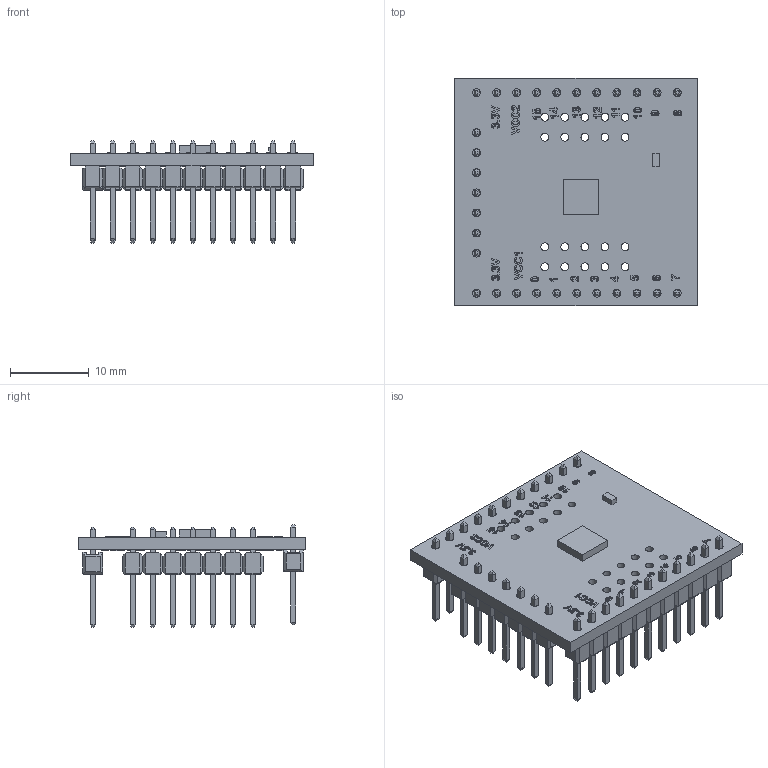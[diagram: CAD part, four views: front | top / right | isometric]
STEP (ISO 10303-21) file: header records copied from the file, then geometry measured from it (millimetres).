
FILE_DESCRIPTION(/* description */ (''),/* implementation_level */ '2;1');
FILE_NAME(/* name */ 'SX1509 v6.step',/* time_stamp */ '2025-10-18T14:45:38+02:00',/* author */ (''),/* organization */ (''),/* preprocessor_version */ 'ST-DEVELOPER v20.1',/* originating_system */ 'Autodesk Translation Framework v14.17.0.0',/* authorisation */ '');
FILE_SCHEMA (('AUTOMOTIVE_DESIGN { 1 0 10303 214 3 1 1 }'));
Products named in the file (4): SX1509; Pin Header 1x11 TH Pitch 2.54mm v1(Symétrie miroir
); Pin Header 1x7 TH Pitch 2.54mm; Pin Header 1x11 TH Pitch 2.54mm
Assembly tree (3 placements, depth 2):
  SX1509
    Pin Header 1x11 TH Pitch 2.54mm v1(Symétrie miroir
)
    Pin Header 1x7 TH Pitch 2.54mm
    Pin Header 1x11 TH Pitch 2.54mm
Bounding box: 30.67 x 28.78 x 13.02 mm (x, y, z)
Volume: 1522.2 mm3; surface area: 4133.3 mm2
Topology: 30 solids, 59 shells, 2035 faces, 5404 edges, 3524 vertices
Faces by surface type: plane 1362, bspline 547, cylinder 126
Full cylindrical faces by diameter (mm): 1 x49, 1.8 x19
Entity records: 67709 total; most frequent: CARTESIAN_POINT 20269, ORIENTED_EDGE 10600, DIRECTION 7672, EDGE_CURVE 5404, LINE 3938, VECTOR 3938, VERTEX_POINT 3524, EDGE_LOOP 2280
